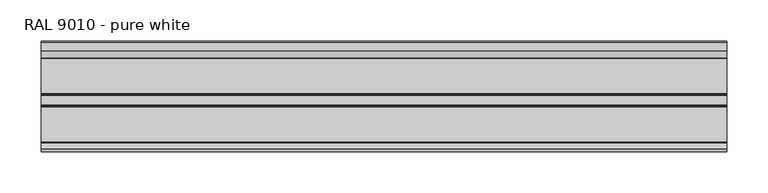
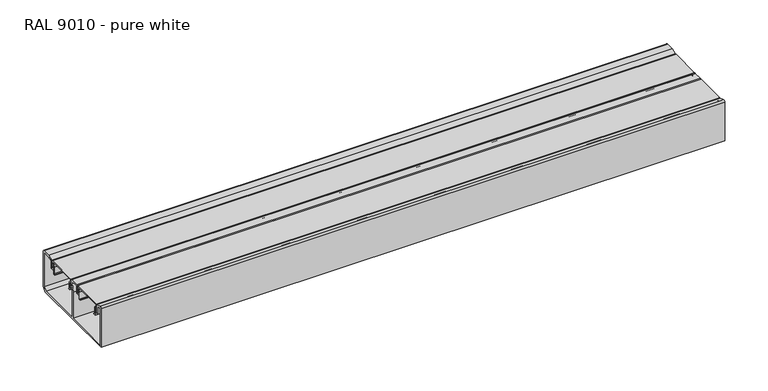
"""IFC4 building model written with IfcOpenShell, lengths in millimetres: proxy geometry, Electrical_Installations_Hager_GBD-Flat-Lid-End-Cap : RAL 9010 - pure white."""

from ifc_helpers import new_model, si_unit, point, frame, frame_2d, origin, place, context, project, spatial, polyline, circle_curve, trimmed, segment, composite_curve, outline, extrude, source, transform, mapped, element, save


def ral_9010_pure_white_1ca076a8(model_context):
    return source(origin(), model_context, "Body", "SweptSolid", [
        extrude(outline(composite_curve([segment(polyline([(-64.6976563, 54.0894343), (-64.6976563, 2.0), (-2.2476563, 2.0), (-2.2476563, 38.3324137), (-0.2476563, 49.6749773), (-0.2476563, 52.0), (-9.8476563, 52.0), (-9.8476563, 41.5012147), (-14.5382813, 41.5012147), (-14.5382813, 45.748101), (-13.5382813, 45.748101), (-13.5382813, 42.9887147), (-11.6476563, 42.9887147), (-11.6476563, 53.0031102)]), True, "CONTINUOUS"), segment(trimmed(circle_curve(frame_2d((-10.6507665, 53.0031102)), 0.9968898), [point((-11.6476563, 53.0031102))], [point((-10.6507665, 54.0))], False, "CARTESIAN"), True, "CONTINUOUS"), segment(polyline([(-10.6507665, 54.0), (0.7441474, 54.0)]), True, "CONTINUOUS"), segment(trimmed(circle_curve(frame_2d((0.7441474, 52.9918037)), 1.0081963), [point((0.7441474, 54.0))], [point((1.7523437, 52.9918037))], False, "CARTESIAN"), True, "CONTINUOUS"), segment(polyline([(1.7523437, 52.9918037), (1.7523437, 49.5), (0.6591165, 43.3), (3.2523437, 43.3), (3.2523437, 45.7537431), (4.2523437, 45.7537431), (4.2523437, 41.5), (0.3417279, 41.5), (-0.2476563, 38.1574364), (-0.2476563, 2.0), (60.5496526, 2.0), (64.5023437, 5.9526912), (64.5023437, 54.2), (54.8614746, 54.2), (48.5523437, 52.1500391), (48.5523437, 41.5), (44.2523437, 41.5), (44.2523437, 45.7556921), (45.2523437, 45.7556921), (45.2523437, 42.9887147), (46.7523437, 42.9887147), (46.7523437, 53.9835468), (54.4971904, 56.5), (64.8989144, 56.5)]), True, "CONTINUOUS"), segment(trimmed(circle_curve(frame_2d((64.8989144, 54.5965707)), 1.9034293), [point((64.8989144, 56.5))], [point((66.8023437, 54.5965707))], False, "CARTESIAN"), True, "CONTINUOUS"), segment(polyline([(66.8023437, 54.5965707), (66.8023437, 5.0), (61.8023437, 0.0), (-66.9976563, 0.0), (-66.9976563, 54.4045249)]), True, "CONTINUOUS"), segment(trimmed(circle_curve(frame_2d((-64.9278927, 54.4045249)), 2.0697636), [point((-66.9976563, 54.4045249))], [point((-64.2989994, 56.3764312))], False, "CARTESIAN"), True, "CONTINUOUS"), segment(polyline([(-64.2989994, 56.3764312), (-56.8429688, 53.998505), (-56.8429688, 42.9887147), (-54.6789063, 42.9887147), (-54.6789063, 45.7565885), (-53.6789063, 45.7565885), (-53.6789063, 41.5012147), (-58.4476563, 41.5012147), (-58.4476563, 52.0961433), (-64.6976563, 54.0894343)]), True, "CONTINUOUS")], self_intersect=False)), frame((0.0, 0.0, 0.0), z_axis=(1.0, 0.0, 0.0), x_axis=(0.0, 1.0, 0.0)), (0.0, 0.0, 1.0), 831.0229606),
        extrude(outline(composite_curve([segment(polyline([(-13.1613464, 52.5816445), (-55.0613464, 52.5816445), (-55.0613464, 49.2816445), (-53.7229555, 49.2816445)]), True, "CONTINUOUS"), segment(trimmed(circle_curve(frame_2d((-53.7229555, 47.1700354)), 2.1116091), [point((-53.7229555, 49.2816445))], [point((-51.6113464, 47.1700354))], False, "CARTESIAN"), True, "CONTINUOUS"), segment(polyline([(-51.6113464, 47.1700354), (-51.6113464, 37.6816445), (-49.7113464, 37.6816445), (-49.7113464, 36.8816445), (-52.6113464, 36.8816445), (-52.6113464, 47.3262929)]), True, "CONTINUOUS"), segment(trimmed(circle_curve(frame_2d((-53.566698, 47.3262929)), 0.9553516), [point((-52.6113464, 47.3262929))], [point((-53.566698, 48.2816445))], True, "CARTESIAN"), True, "CONTINUOUS"), segment(polyline([(-53.566698, 48.2816445), (-55.3644879, 48.2816445), (-55.3644879, 43.8012242), (-56.3660339, 43.8012242), (-56.3660339, 53.0900381)]), True, "CONTINUOUS"), segment(trimmed(circle_curve(frame_2d((-55.456072, 53.0900381)), 0.9099619), [point((-56.3660339, 53.0900381))], [point((-55.456072, 54.0))], False, "CARTESIAN"), True, "CONTINUOUS"), segment(polyline([(-55.456072, 54.0), (-12.9820268, 54.0)]), True, "CONTINUOUS"), segment(trimmed(circle_curve(frame_2d((-12.9820268, 52.9918196)), 1.0081804), [point((-12.9820268, 54.0))], [point((-11.9738464, 52.9918196))], False, "CARTESIAN"), True, "CONTINUOUS"), segment(polyline([(-11.9738464, 52.9918196), (-11.9738464, 43.8012242), (-12.858205, 43.8012242), (-12.858205, 48.2816445), (-14.6025892, 48.2816445)]), True, "CONTINUOUS"), segment(trimmed(circle_curve(frame_2d((-14.6025892, 47.2728873)), 1.0087572), [point((-14.6025892, 48.2816445))], [point((-15.6113464, 47.2728873))], True, "CARTESIAN"), True, "CONTINUOUS"), segment(polyline([(-15.6113464, 47.2728873), (-15.6113464, 36.8816445), (-18.5113464, 36.8816445), (-18.5113464, 37.6816445), (-16.6113464, 37.6816445), (-16.6113464, 47.3197896)]), True, "CONTINUOUS"), segment(trimmed(circle_curve(frame_2d((-14.6494915, 47.3197896)), 1.9618549), [point((-16.6113464, 47.3197896))], [point((-14.6494915, 49.2816445))], False, "CARTESIAN"), True, "CONTINUOUS"), segment(polyline([(-14.6494915, 49.2816445), (-13.1613464, 49.2816445), (-13.1613464, 52.5816445)]), True, "CONTINUOUS")], self_intersect=False)), frame((0.0, 0.0, 0.0), z_axis=(1.0, 0.0, 0.0), x_axis=(0.0, 1.0, 0.0)), (0.0, 0.0, 1.0), 831.0229606),
        extrude(outline(composite_curve([segment(polyline([(45.1923672, 52.5816445), (3.2923672, 52.5816445), (3.2923672, 49.2816445), (4.6307581, 49.2816445)]), True, "CONTINUOUS"), segment(trimmed(circle_curve(frame_2d((4.6307581, 47.1700354)), 2.1116091), [point((4.6307581, 49.2816445))], [point((6.7423672, 47.1700354))], False, "CARTESIAN"), True, "CONTINUOUS"), segment(polyline([(6.7423672, 47.1700354), (6.7423672, 37.6816445), (8.6423672, 37.6816445), (8.6423672, 36.8816445), (5.7423672, 36.8816445), (5.7423672, 47.3262929)]), True, "CONTINUOUS"), segment(trimmed(circle_curve(frame_2d((4.7870156, 47.3262929)), 0.9553516), [point((5.7423672, 47.3262929))], [point((4.7870156, 48.2816445))], True, "CARTESIAN"), True, "CONTINUOUS"), segment(polyline([(4.7870156, 48.2816445), (2.9892258, 48.2816445), (2.9892258, 43.8231023), (1.9876797, 43.8231023), (1.9876797, 53.0900381)]), True, "CONTINUOUS"), segment(trimmed(circle_curve(frame_2d((2.8976417, 53.0900381)), 0.9099619), [point((1.9876797, 53.0900381))], [point((2.8976417, 54.0))], False, "CARTESIAN"), True, "CONTINUOUS"), segment(polyline([(2.8976417, 54.0), (45.3716869, 54.0)]), True, "CONTINUOUS"), segment(trimmed(circle_curve(frame_2d((45.3716869, 52.9918196)), 1.0081804), [point((45.3716869, 54.0))], [point((46.3798672, 52.9918196))], False, "CARTESIAN"), True, "CONTINUOUS"), segment(polyline([(46.3798672, 52.9918196), (46.3798672, 43.9733035), (45.4955087, 43.9733035), (45.4955087, 48.2816445), (43.7511244, 48.2816445)]), True, "CONTINUOUS"), segment(trimmed(circle_curve(frame_2d((43.7511244, 47.2728873)), 1.0087572), [point((43.7511244, 48.2816445))], [point((42.7423672, 47.2728873))], True, "CARTESIAN"), True, "CONTINUOUS"), segment(polyline([(42.7423672, 47.2728873), (42.7423672, 36.8816445), (39.8423672, 36.8816445), (39.8423672, 37.6816445), (41.7423672, 37.6816445), (41.7423672, 47.3197896)]), True, "CONTINUOUS"), segment(trimmed(circle_curve(frame_2d((43.7042221, 47.3197896)), 1.9618549), [point((41.7423672, 47.3197896))], [point((43.7042221, 49.2816445))], False, "CARTESIAN"), True, "CONTINUOUS"), segment(polyline([(43.7042221, 49.2816445), (45.1923672, 49.2816445), (45.1923672, 52.5816445)]), True, "CONTINUOUS")], self_intersect=False)), frame((0.0, 0.0, 0.0), z_axis=(1.0, 0.0, 0.0), x_axis=(0.0, 1.0, 0.0)), (0.0, 0.0, 1.0), 831.0229606),
    ])


if __name__ == "__main__":
    model = new_model("IFC4")
    model_context = context("Model", 3, world=origin())
    ifc_project = project(units=[si_unit("LENGTHUNIT", "METRE", prefix="MILLI")], contexts=[model_context])
    site = spatial("IfcSite", under=ifc_project)
    building = spatial("IfcBuilding", under=site)
    placement = place(None, origin())
    ral_9010_pure_white_shape = ral_9010_pure_white_1ca076a8(model_context)
    element("IfcBuildingElementProxy", 1, Name="Electrical_Installations_Hager_GBD-Flat-Lid-End-Cap : RAL 9010 - pure white", ObjectType="Electrical_Installations_Hager_GBD-Flat-Lid-End-Cap : RAL 9010 - pure white", at=placement, inside=building, context=model_context, shape_type="MappedRepresentation", body=[
        mapped(ral_9010_pure_white_shape, transform((0.0, 0.0, 0.0), x_axis=(1.0, 0.0, 0.0), y_axis=(0.0, 1.0, 0.0), z_axis=(0.0, 0.0, 1.0))),
    ])
    save(model, "model.ifc")
